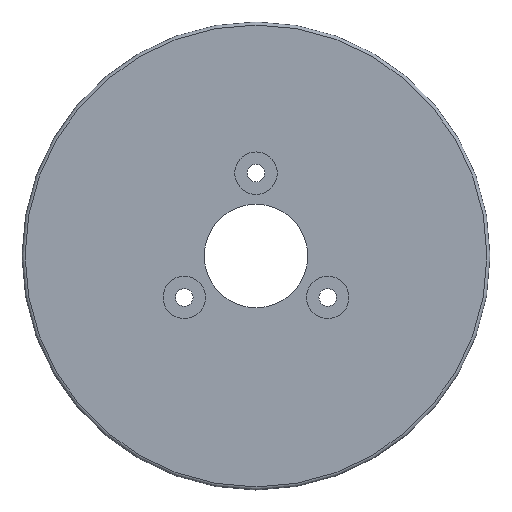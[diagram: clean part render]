
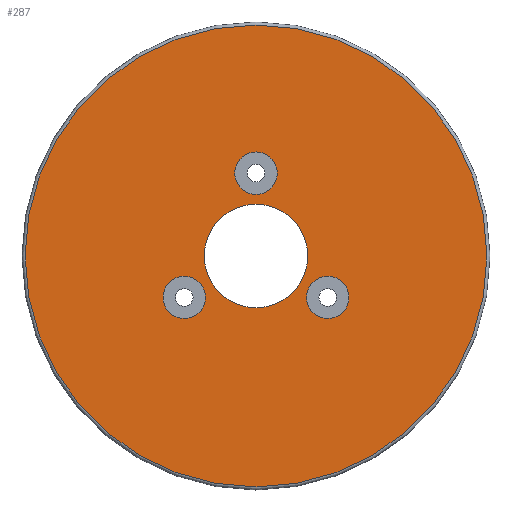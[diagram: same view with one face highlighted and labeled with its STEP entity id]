
A CAD part, top view. The second image highlights one B-rep face of the part: STEP entity #287.
In plain terms, the highlighted planar face has unit normal (0, 0, 1).
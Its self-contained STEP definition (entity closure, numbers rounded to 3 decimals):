
#66 = TOROIDAL_SURFACE('',#67,44.6,0.6);
#67 = AXIS2_PLACEMENT_3D('',#68,#69,#70);
#68 = CARTESIAN_POINT('',(0.,0.,41.2));
#69 = DIRECTION('',(0.,0.,1.));
#70 = DIRECTION('',(1.,0.,-0.));
#110 = VERTEX_POINT('',#111);
#111 = CARTESIAN_POINT('',(44.6,0.,41.8));
#133 = EDGE_CURVE('',#110,#110,#134,.T.);
#134 = SURFACE_CURVE('',#135,(#140,#147),.PCURVE_S1.);
#135 = CIRCLE('',#136,44.6);
#136 = AXIS2_PLACEMENT_3D('',#137,#138,#139);
#137 = CARTESIAN_POINT('',(0.,0.,41.8));
#138 = DIRECTION('',(0.,0.,1.));
#139 = DIRECTION('',(1.,0.,-0.));
#140 = PCURVE('',#66,#141);
#141 = DEFINITIONAL_REPRESENTATION('',(#142),#146);
#142 = LINE('',#143,#144);
#143 = CARTESIAN_POINT('',(0.,1.571));
#144 = VECTOR('',#145,1.);
#145 = DIRECTION('',(1.,0.));
#146 = ( GEOMETRIC_REPRESENTATION_CONTEXT(2) 
PARAMETRIC_REPRESENTATION_CONTEXT() REPRESENTATION_CONTEXT('2D SPACE',''
  ) );
#147 = PCURVE('',#148,#153);
#148 = PLANE('',#149);
#149 = AXIS2_PLACEMENT_3D('',#150,#151,#152);
#150 = CARTESIAN_POINT('',(0.,0.,41.8));
#151 = DIRECTION('',(0.,0.,1.));
#152 = DIRECTION('',(1.,0.,-0.));
#153 = DEFINITIONAL_REPRESENTATION('',(#154),#158);
#154 = CIRCLE('',#155,44.6);
#155 = AXIS2_PLACEMENT_2D('',#156,#157);
#156 = CARTESIAN_POINT('',(0.,0.));
#157 = DIRECTION('',(1.,0.));
#158 = ( GEOMETRIC_REPRESENTATION_CONTEXT(2) 
PARAMETRIC_REPRESENTATION_CONTEXT() REPRESENTATION_CONTEXT('2D SPACE',''
  ) );
#245 = CYLINDRICAL_SURFACE('',#246,10.);
#246 = AXIS2_PLACEMENT_3D('',#247,#248,#249);
#247 = CARTESIAN_POINT('',(0.,0.,22.));
#248 = DIRECTION('',(0.,0.,1.));
#249 = DIRECTION('',(1.,0.,-0.));
#287 = ADVANCED_FACE('',(#288,#291,#322,#353,#379),#148,.T.);
#288 = FACE_BOUND('',#289,.T.);
#289 = EDGE_LOOP('',(#290));
#290 = ORIENTED_EDGE('',*,*,#133,.T.);
#291 = FACE_BOUND('',#292,.T.);
#292 = EDGE_LOOP('',(#293));
#293 = ORIENTED_EDGE('',*,*,#294,.F.);
#294 = EDGE_CURVE('',#295,#295,#297,.T.);
#295 = VERTEX_POINT('',#296);
#296 = CARTESIAN_POINT('',(-9.756,-8.,41.8));
#297 = SURFACE_CURVE('',#298,(#303,#310),.PCURVE_S1.);
#298 = CIRCLE('',#299,4.1);
#299 = AXIS2_PLACEMENT_3D('',#300,#301,#302);
#300 = CARTESIAN_POINT('',(-13.856,-8.,41.8));
#301 = DIRECTION('',(0.,0.,1.));
#302 = DIRECTION('',(1.,0.,-0.));
#303 = PCURVE('',#148,#304);
#304 = DEFINITIONAL_REPRESENTATION('',(#305),#309);
#305 = CIRCLE('',#306,4.1);
#306 = AXIS2_PLACEMENT_2D('',#307,#308);
#307 = CARTESIAN_POINT('',(-13.856,-8.));
#308 = DIRECTION('',(1.,0.));
#309 = ( GEOMETRIC_REPRESENTATION_CONTEXT(2) 
PARAMETRIC_REPRESENTATION_CONTEXT() REPRESENTATION_CONTEXT('2D SPACE',''
  ) );
#310 = PCURVE('',#311,#316);
#311 = CYLINDRICAL_SURFACE('',#312,4.1);
#312 = AXIS2_PLACEMENT_3D('',#313,#314,#315);
#313 = CARTESIAN_POINT('',(-13.856,-8.,41.4));
#314 = DIRECTION('',(0.,0.,1.));
#315 = DIRECTION('',(1.,0.,-0.));
#316 = DEFINITIONAL_REPRESENTATION('',(#317),#321);
#317 = LINE('',#318,#319);
#318 = CARTESIAN_POINT('',(0.,0.4));
#319 = VECTOR('',#320,1.);
#320 = DIRECTION('',(1.,0.));
#321 = ( GEOMETRIC_REPRESENTATION_CONTEXT(2) 
PARAMETRIC_REPRESENTATION_CONTEXT() REPRESENTATION_CONTEXT('2D SPACE',''
  ) );
#322 = FACE_BOUND('',#323,.T.);
#323 = EDGE_LOOP('',(#324));
#324 = ORIENTED_EDGE('',*,*,#325,.F.);
#325 = EDGE_CURVE('',#326,#326,#328,.T.);
#326 = VERTEX_POINT('',#327);
#327 = CARTESIAN_POINT('',(17.956,-8.,41.8));
#328 = SURFACE_CURVE('',#329,(#334,#341),.PCURVE_S1.);
#329 = CIRCLE('',#330,4.1);
#330 = AXIS2_PLACEMENT_3D('',#331,#332,#333);
#331 = CARTESIAN_POINT('',(13.856,-8.,41.8));
#332 = DIRECTION('',(0.,0.,1.));
#333 = DIRECTION('',(1.,0.,-0.));
#334 = PCURVE('',#148,#335);
#335 = DEFINITIONAL_REPRESENTATION('',(#336),#340);
#336 = CIRCLE('',#337,4.1);
#337 = AXIS2_PLACEMENT_2D('',#338,#339);
#338 = CARTESIAN_POINT('',(13.856,-8.));
#339 = DIRECTION('',(1.,0.));
#340 = ( GEOMETRIC_REPRESENTATION_CONTEXT(2) 
PARAMETRIC_REPRESENTATION_CONTEXT() REPRESENTATION_CONTEXT('2D SPACE',''
  ) );
#341 = PCURVE('',#342,#347);
#342 = CYLINDRICAL_SURFACE('',#343,4.1);
#343 = AXIS2_PLACEMENT_3D('',#344,#345,#346);
#344 = CARTESIAN_POINT('',(13.856,-8.,41.4));
#345 = DIRECTION('',(0.,0.,1.));
#346 = DIRECTION('',(1.,0.,-0.));
#347 = DEFINITIONAL_REPRESENTATION('',(#348),#352);
#348 = LINE('',#349,#350);
#349 = CARTESIAN_POINT('',(0.,0.4));
#350 = VECTOR('',#351,1.);
#351 = DIRECTION('',(1.,0.));
#352 = ( GEOMETRIC_REPRESENTATION_CONTEXT(2) 
PARAMETRIC_REPRESENTATION_CONTEXT() REPRESENTATION_CONTEXT('2D SPACE',''
  ) );
#353 = FACE_BOUND('',#354,.T.);
#354 = EDGE_LOOP('',(#355));
#355 = ORIENTED_EDGE('',*,*,#356,.F.);
#356 = EDGE_CURVE('',#357,#357,#359,.T.);
#357 = VERTEX_POINT('',#358);
#358 = CARTESIAN_POINT('',(10.,0.,41.8));
#359 = SURFACE_CURVE('',#360,(#365,#372),.PCURVE_S1.);
#360 = CIRCLE('',#361,10.);
#361 = AXIS2_PLACEMENT_3D('',#362,#363,#364);
#362 = CARTESIAN_POINT('',(0.,0.,41.8));
#363 = DIRECTION('',(0.,0.,1.));
#364 = DIRECTION('',(1.,0.,-0.));
#365 = PCURVE('',#148,#366);
#366 = DEFINITIONAL_REPRESENTATION('',(#367),#371);
#367 = CIRCLE('',#368,10.);
#368 = AXIS2_PLACEMENT_2D('',#369,#370);
#369 = CARTESIAN_POINT('',(0.,0.));
#370 = DIRECTION('',(1.,0.));
#371 = ( GEOMETRIC_REPRESENTATION_CONTEXT(2) 
PARAMETRIC_REPRESENTATION_CONTEXT() REPRESENTATION_CONTEXT('2D SPACE',''
  ) );
#372 = PCURVE('',#245,#373);
#373 = DEFINITIONAL_REPRESENTATION('',(#374),#378);
#374 = LINE('',#375,#376);
#375 = CARTESIAN_POINT('',(0.,19.8));
#376 = VECTOR('',#377,1.);
#377 = DIRECTION('',(1.,0.));
#378 = ( GEOMETRIC_REPRESENTATION_CONTEXT(2) 
PARAMETRIC_REPRESENTATION_CONTEXT() REPRESENTATION_CONTEXT('2D SPACE',''
  ) );
#379 = FACE_BOUND('',#380,.T.);
#380 = EDGE_LOOP('',(#381));
#381 = ORIENTED_EDGE('',*,*,#382,.F.);
#382 = EDGE_CURVE('',#383,#383,#385,.T.);
#383 = VERTEX_POINT('',#384);
#384 = CARTESIAN_POINT('',(4.1,16.,41.8));
#385 = SURFACE_CURVE('',#386,(#391,#398),.PCURVE_S1.);
#386 = CIRCLE('',#387,4.1);
#387 = AXIS2_PLACEMENT_3D('',#388,#389,#390);
#388 = CARTESIAN_POINT('',(0.,16.,41.8));
#389 = DIRECTION('',(0.,0.,1.));
#390 = DIRECTION('',(1.,0.,-0.));
#391 = PCURVE('',#148,#392);
#392 = DEFINITIONAL_REPRESENTATION('',(#393),#397);
#393 = CIRCLE('',#394,4.1);
#394 = AXIS2_PLACEMENT_2D('',#395,#396);
#395 = CARTESIAN_POINT('',(0.,16.));
#396 = DIRECTION('',(1.,0.));
#397 = ( GEOMETRIC_REPRESENTATION_CONTEXT(2) 
PARAMETRIC_REPRESENTATION_CONTEXT() REPRESENTATION_CONTEXT('2D SPACE',''
  ) );
#398 = PCURVE('',#399,#404);
#399 = CYLINDRICAL_SURFACE('',#400,4.1);
#400 = AXIS2_PLACEMENT_3D('',#401,#402,#403);
#401 = CARTESIAN_POINT('',(0.,16.,41.4));
#402 = DIRECTION('',(0.,0.,1.));
#403 = DIRECTION('',(1.,0.,-0.));
#404 = DEFINITIONAL_REPRESENTATION('',(#405),#409);
#405 = LINE('',#406,#407);
#406 = CARTESIAN_POINT('',(0.,0.4));
#407 = VECTOR('',#408,1.);
#408 = DIRECTION('',(1.,0.));
#409 = ( GEOMETRIC_REPRESENTATION_CONTEXT(2) 
PARAMETRIC_REPRESENTATION_CONTEXT() REPRESENTATION_CONTEXT('2D SPACE',''
  ) );
